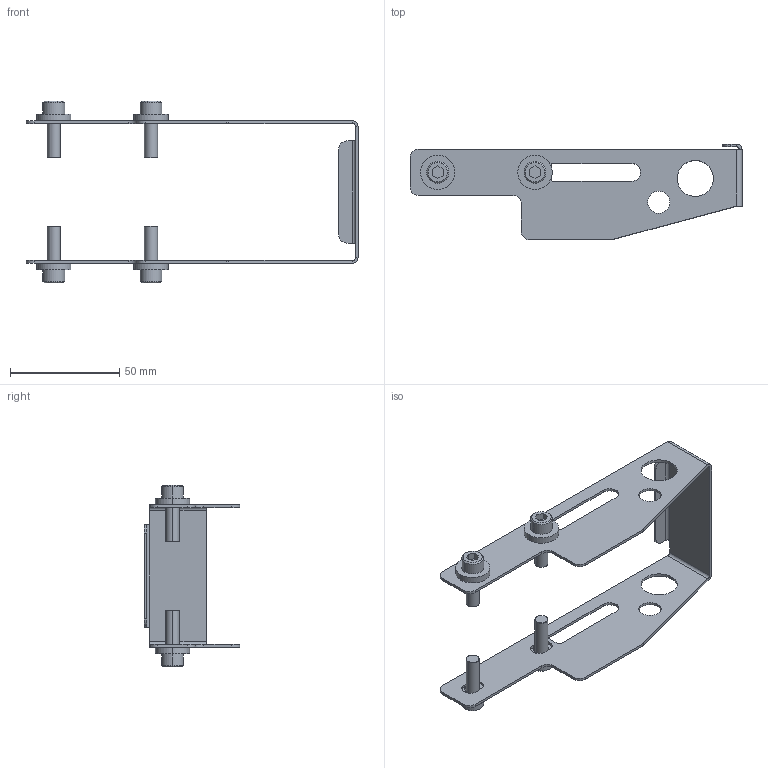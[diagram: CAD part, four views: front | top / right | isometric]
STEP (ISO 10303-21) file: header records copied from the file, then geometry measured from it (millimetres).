
FILE_DESCRIPTION((''),'2;1');
FILE_NAME('207218-03_ASM','2017-10-03T',('james.horst'),(''),'PRO/ENGINEER BY PARAMETRIC TECHNOLOGY CORPORATION, 2012420','PRO/ENGINEER BY PARAMETRIC TECHNOLOGY CORPORATION, 2012420','');
FILE_SCHEMA(('CONFIG_CONTROL_DESIGN'));
Length unit declared in the file: inch
Products named in the file (5): 207128-02; 605279P; 920620M; 207218-03_ASM_1_ASM; 207218-03_ASM
Assembly tree (10 placements, depth 3):
  207218-03_ASM
    207218-03_ASM_1_ASM
      207128-02
      605279P  x4
      920620M  x4
Bounding box: 151.79 x 43.71 x 83.15 mm (x, y, z)
Volume: 17925.2 mm3; surface area: 26709.8 mm2
Topology: 9 solids, 9 shells, 187 faces, 445 edges, 284 vertices
Faces by surface type: plane 94, cylinder 77, cone 16
Entity records: 3762 total; most frequent: DIRECTION 685, CARTESIAN_POINT 622, ORIENTED_EDGE 590, EDGE_CURVE 295, AXIS2_PLACEMENT_3D 251, VERTEX_POINT 188, VECTOR 183, LINE 183
